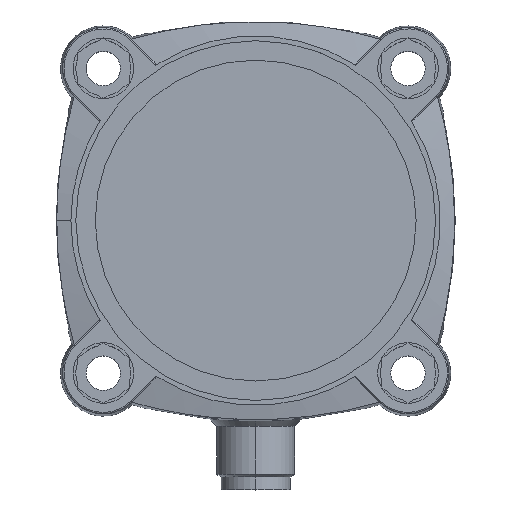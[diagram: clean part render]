
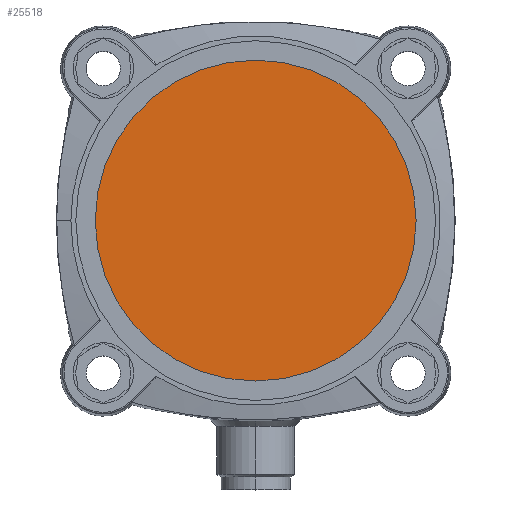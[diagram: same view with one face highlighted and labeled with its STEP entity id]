
A CAD part, top view. The second image highlights one B-rep face of the part: STEP entity #25518.
In plain terms, the highlighted planar face has unit normal (0, 0, 1).
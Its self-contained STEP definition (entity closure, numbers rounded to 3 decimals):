
#2059 = EDGE_LOOP ( 'NONE', ( #5980, #12084 ) ) ;
#2353 = DIRECTION ( 'NONE',  ( 0., 0., 1. ) ) ;
#2566 = VERTEX_POINT ( 'NONE', #10091 ) ;
#4222 = CARTESIAN_POINT ( 'NONE',  ( -24.75, 0., 36.9 ) ) ;
#4238 = CARTESIAN_POINT ( 'NONE',  ( 0., 0., 36.9 ) ) ;
#5299 = DIRECTION ( 'NONE',  ( 1., 0., 0. ) ) ;
#5980 = ORIENTED_EDGE ( 'NONE', *, *, #17234, .T. ) ;
#6005 = DIRECTION ( 'NONE',  ( 0., 0., 1. ) ) ;
#6134 = PLANE ( 'NONE',  #21353 ) ;
#10091 = CARTESIAN_POINT ( 'NONE',  ( 24.75, 0., 36.9 ) ) ;
#11551 = DIRECTION ( 'NONE',  ( 0., 0., 1. ) ) ;
#11684 = CARTESIAN_POINT ( 'NONE',  ( 0., 0., 36.9 ) ) ;
#12084 = ORIENTED_EDGE ( 'NONE', *, *, #19224, .T. ) ;
#14160 = AXIS2_PLACEMENT_3D ( 'NONE', #14592, #6005, #24999 ) ;
#14592 = CARTESIAN_POINT ( 'NONE',  ( 0., 0., 36.9 ) ) ;
#17182 = CIRCLE ( 'NONE', #14160, 24.75 ) ;
#17234 = EDGE_CURVE ( 'NONE', #2566, #20379, #17531, .T. ) ;
#17531 = CIRCLE ( 'NONE', #22731, 24.75 ) ;
#19224 = EDGE_CURVE ( 'NONE', #20379, #2566, #17182, .T. ) ;
#20379 = VERTEX_POINT ( 'NONE', #4222 ) ;
#20939 = FACE_OUTER_BOUND ( 'NONE', #2059, .T. ) ;
#21353 = AXIS2_PLACEMENT_3D ( 'NONE', #4238, #2353, #22703 ) ;
#22703 = DIRECTION ( 'NONE',  ( 1., 0., 0. ) ) ;
#22731 = AXIS2_PLACEMENT_3D ( 'NONE', #11684, #11551, #5299 ) ;
#24999 = DIRECTION ( 'NONE',  ( 1., 0., 0. ) ) ;
#25518 = ADVANCED_FACE ( 'NONE', ( #20939 ), #6134, .T. ) ;
